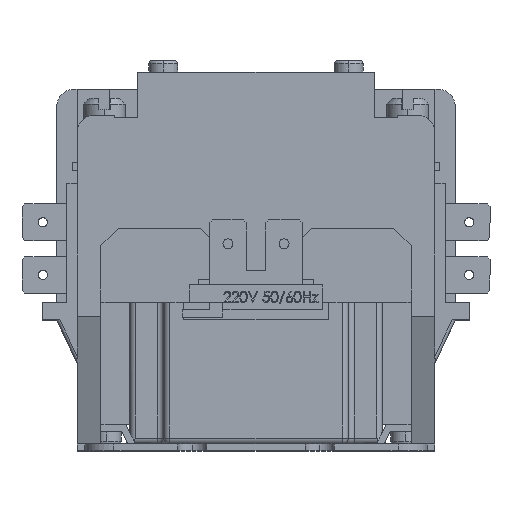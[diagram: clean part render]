
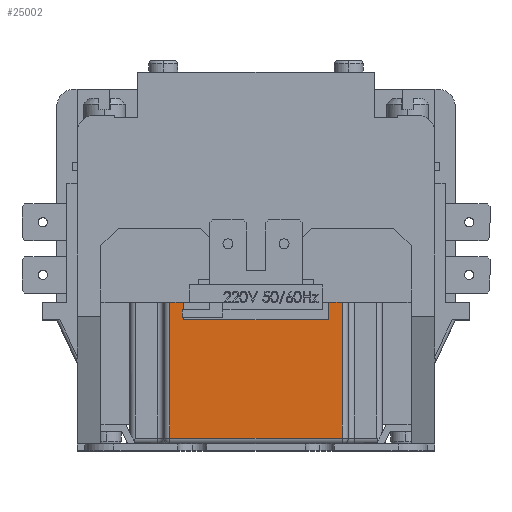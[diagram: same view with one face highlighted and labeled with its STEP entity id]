
A CAD part, top view. The second image highlights one B-rep face of the part: STEP entity #25002.
In plain terms, the highlighted planar face has unit normal (0, 0, 1).
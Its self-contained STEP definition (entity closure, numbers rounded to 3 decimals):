
#1917 = EDGE_CURVE ( 'NONE', #23826, #24811, #22154, .T. ) ;
#1918 = EDGE_CURVE ( 'NONE', #24794, #24811, #22157, .T. ) ;
#1919 = EDGE_CURVE ( 'NONE', #24250, #23826, #22160, .T. ) ;
#1920 = EDGE_CURVE ( 'NONE', #24756, #23737, #22163, .T. ) ;
#1921 = EDGE_CURVE ( 'NONE', #23737, #24655, #22166, .T. ) ;
#1922 = EDGE_CURVE ( 'NONE', #24655, #24794, #22169, .T. ) ;
#2773 = EDGE_CURVE ( 'NONE', #24015, #24250, #13602, .T. ) ;
#2786 = EDGE_CURVE ( 'NONE', #24756, #24015, #13641, .T. ) ;
#12659 = FACE_OUTER_BOUND ( 'NONE', #22588, .T. ) ;
#12660 = AXIS2_PLACEMENT_3D ( 'NONE', #19849, #19850, #19851 ) ;
#13602 = LINE ( 'NONE', #13603, #29349 ) ;
#13603 = CARTESIAN_POINT ( 'NONE',  ( -12.5, 21.4, 19.875 ) ) ;
#13604 = DIRECTION ( 'NONE',  ( 0., -1., 0. ) ) ;
#13641 = LINE ( 'NONE', #13642, #29388 ) ;
#13642 = CARTESIAN_POINT ( 'NONE',  ( -6.6, 24.4, 19.875 ) ) ;
#13643 = DIRECTION ( 'NONE',  ( 1., 0., 0. ) ) ;
#15853 = CARTESIAN_POINT ( 'NONE',  ( -14.9, 1., 19.875 ) ) ;
#15942 = CARTESIAN_POINT ( 'NONE',  ( 12.5, 21.4, 19.875 ) ) ;
#16130 = CARTESIAN_POINT ( 'NONE',  ( -12.5, 24.4, 19.875 ) ) ;
#16364 = CARTESIAN_POINT ( 'NONE',  ( -12.5, 21.4, 19.875 ) ) ;
#17027 = CARTESIAN_POINT ( 'NONE',  ( 14.9, 1., 19.875 ) ) ;
#17223 = CARTESIAN_POINT ( 'NONE',  ( -14.9, 24.4, 19.875 ) ) ;
#17299 = CARTESIAN_POINT ( 'NONE',  ( 14.9, 24.4, 19.875 ) ) ;
#17333 = CARTESIAN_POINT ( 'NONE',  ( 12.5, 24.4, 19.875 ) ) ;
#19848 = PLANE ( 'NONE',  #12660 ) ;
#19849 = CARTESIAN_POINT ( 'NONE',  ( -36.85, 64.1, 19.875 ) ) ;
#19850 = DIRECTION ( 'NONE',  ( 0., 0., -1. ) ) ;
#19851 = DIRECTION ( 'NONE',  ( -1., 0., 0. ) ) ;
#22154 = LINE ( 'NONE', #22155, #35226 ) ;
#22155 = CARTESIAN_POINT ( 'NONE',  ( 12.5, 21.4, 19.875 ) ) ;
#22156 = DIRECTION ( 'NONE',  ( 0., 1., 0. ) ) ;
#22157 = LINE ( 'NONE', #22158, #35227 ) ;
#22158 = CARTESIAN_POINT ( 'NONE',  ( 6.6, 24.4, 19.875 ) ) ;
#22159 = DIRECTION ( 'NONE',  ( -1., 0., 0. ) ) ;
#22160 = LINE ( 'NONE', #22161, #35228 ) ;
#22161 = CARTESIAN_POINT ( 'NONE',  ( 12.5, 21.4, 19.875 ) ) ;
#22162 = DIRECTION ( 'NONE',  ( 1., 0., 0. ) ) ;
#22163 = LINE ( 'NONE', #22164, #35229 ) ;
#22164 = CARTESIAN_POINT ( 'NONE',  ( -14.9, 64.1, 19.875 ) ) ;
#22165 = DIRECTION ( 'NONE',  ( 0., -1., 0. ) ) ;
#22166 = LINE ( 'NONE', #22167, #35230 ) ;
#22167 = CARTESIAN_POINT ( 'NONE',  ( 14.9, 1., 19.875 ) ) ;
#22168 = DIRECTION ( 'NONE',  ( 1., 0., 0. ) ) ;
#22169 = LINE ( 'NONE', #22170, #35231 ) ;
#22170 = CARTESIAN_POINT ( 'NONE',  ( 14.9, 24.4, 19.875 ) ) ;
#22171 = DIRECTION ( 'NONE',  ( 0., 1., 0. ) ) ;
#22588 = EDGE_LOOP ( 'NONE', ( #28181, #28183, #28182, #28184, #28186, #28185, #28188, #28187 ) ) ;
#23737 = VERTEX_POINT ( 'NONE', #15853 ) ;
#23826 = VERTEX_POINT ( 'NONE', #15942 ) ;
#24015 = VERTEX_POINT ( 'NONE', #16130 ) ;
#24250 = VERTEX_POINT ( 'NONE', #16364 ) ;
#24655 = VERTEX_POINT ( 'NONE', #17027 ) ;
#24756 = VERTEX_POINT ( 'NONE', #17223 ) ;
#24794 = VERTEX_POINT ( 'NONE', #17299 ) ;
#24811 = VERTEX_POINT ( 'NONE', #17333 ) ;
#25002 = ADVANCED_FACE ( 'NONE', ( #12659 ), #19848, .F. ) ;
#28181 = ORIENTED_EDGE ( 'NONE', *, *, #1918, .T. ) ;
#28182 = ORIENTED_EDGE ( 'NONE', *, *, #1919, .F. ) ;
#28183 = ORIENTED_EDGE ( 'NONE', *, *, #1917, .F. ) ;
#28184 = ORIENTED_EDGE ( 'NONE', *, *, #2773, .F. ) ;
#28185 = ORIENTED_EDGE ( 'NONE', *, *, #1920, .T. ) ;
#28186 = ORIENTED_EDGE ( 'NONE', *, *, #2786, .F. ) ;
#28187 = ORIENTED_EDGE ( 'NONE', *, *, #1922, .T. ) ;
#28188 = ORIENTED_EDGE ( 'NONE', *, *, #1921, .T. ) ;
#29349 = VECTOR ( 'NONE', #13604, 1000. ) ;
#29388 = VECTOR ( 'NONE', #13643, 1000. ) ;
#35226 = VECTOR ( 'NONE', #22156, 1000. ) ;
#35227 = VECTOR ( 'NONE', #22159, 1000. ) ;
#35228 = VECTOR ( 'NONE', #22162, 1000. ) ;
#35229 = VECTOR ( 'NONE', #22165, 1000. ) ;
#35230 = VECTOR ( 'NONE', #22168, 1000. ) ;
#35231 = VECTOR ( 'NONE', #22171, 1000. ) ;
